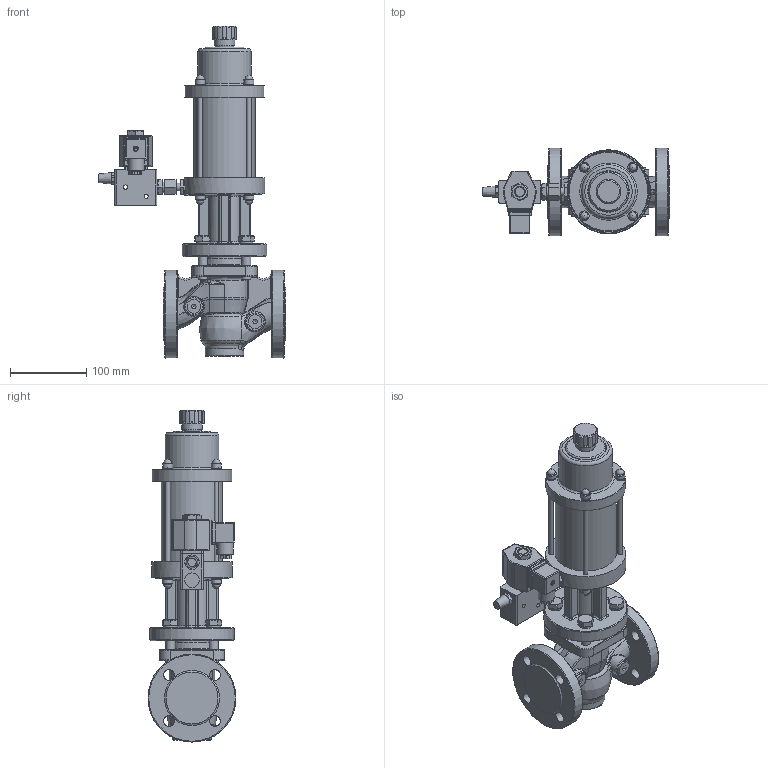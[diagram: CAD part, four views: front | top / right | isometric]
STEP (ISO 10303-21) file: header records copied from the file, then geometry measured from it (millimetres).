
FILE_DESCRIPTION((''),'2;1');
FILE_NAME('G:\CAD-Download\EPVA\6-4-EPVA\DN 25\6-4-EPVA 10NH-4.00.32.stp','2010-03-22T13:55:15',('hb'),(''),'Autodesk Inventor 2008','Autodesk Inventor 2008','');
FILE_SCHEMA(('AUTOMOTIVE_DESIGN { 1 0 10303 214 1 1 1 1 }'));
Length unit declared in the file: millimetre
Products named in the file (1): 6-4-EPVA 10NH-4.00
Bounding box: 244.99 x 115 x 434.05 mm (x, y, z)
Volume: 2461192.7 mm3; surface area: 269848.8 mm2
Topology: 1 solids, 1 shells, 1121 faces, 2838 edges, 1705 vertices
Faces by surface type: plane 494, bspline 244, cylinder 219, cone 89, torus 51, sphere 24
Full cylindrical faces by diameter (mm): 5.5 x1, 6 x8, 6.4 x1, 6.9 x1, 7 x4, 10 x1, 11.5 x8, 12 x12, 13 x8, 14 x1, 14.376 x1, 16 x1, 16.63 x4, 18 x4, 19 x2, 20.15 x2, 21.5 x1, 22.5 x2, 25 x4, 26.6 x1, 32.2 x1, 47.7 x1, 50 x1, 58 x1, 70 x1, 80 x1, 104 x1, 105 x1, 110 x1, 115 x2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
Entity records: 52792 total; most frequent: CARTESIAN_POINT 27512, ORIENTED_EDGE 5068, DIRECTION 4735, EDGE_CURVE 2534, AXIS2_PLACEMENT_3D 1922, VERTEX_POINT 1597, EDGE_LOOP 1398, FACE_OUTER_BOUND 1121
